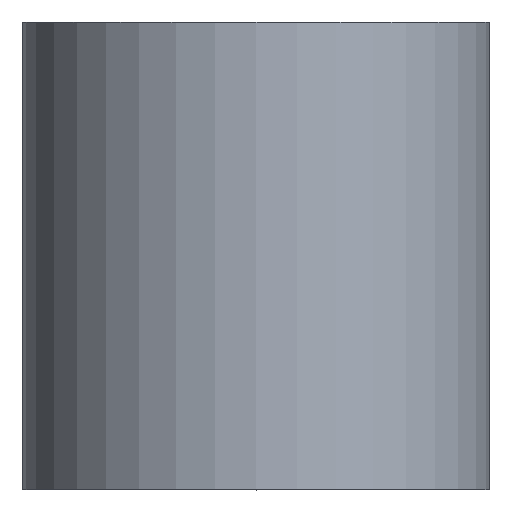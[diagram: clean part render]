
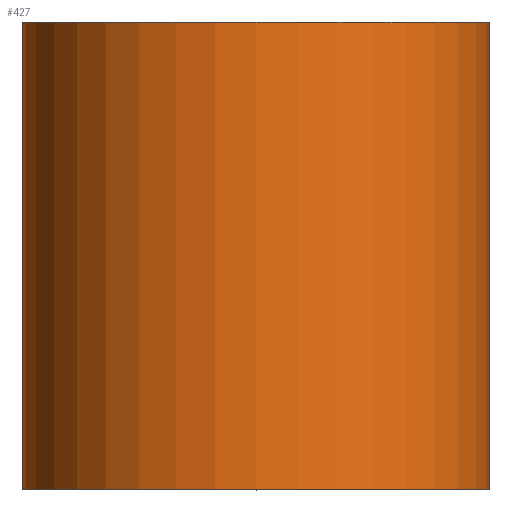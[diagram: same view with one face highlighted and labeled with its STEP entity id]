
A CAD part, top view. The second image highlights one B-rep face of the part: STEP entity #427.
In plain terms, the highlighted cylindrical face has radius 20 mm (diameter 40 mm), a partial arc.
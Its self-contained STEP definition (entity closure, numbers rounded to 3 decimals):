
#36 = EDGE_CURVE ( 'NONE', #72, #76, #856, .T. ) ;
#47 = VERTEX_POINT ( 'NONE', #758 ) ;
#72 = VERTEX_POINT ( 'NONE', #699 ) ;
#76 = VERTEX_POINT ( 'NONE', #762 ) ;
#88 = CIRCLE ( 'NONE', #361, 20. ) ;
#106 = ORIENTED_EDGE ( 'NONE', *, *, #450, .F. ) ;
#136 = AXIS2_PLACEMENT_3D ( 'NONE', #905, #275, #678 ) ;
#226 = VERTEX_POINT ( 'NONE', #641 ) ;
#254 = DIRECTION ( 'NONE',  ( 0., 1., 0. ) ) ;
#275 = DIRECTION ( 'NONE',  ( 0., 1., 0. ) ) ;
#333 = CARTESIAN_POINT ( 'NONE',  ( 20., 0., 0. ) ) ;
#361 = AXIS2_PLACEMENT_3D ( 'NONE', #411, #643, #857 ) ;
#364 = EDGE_CURVE ( 'NONE', #72, #226, #753, .T. ) ;
#386 = FACE_OUTER_BOUND ( 'NONE', #460, .T. ) ;
#411 = CARTESIAN_POINT ( 'NONE',  ( 0., 20., 0. ) ) ;
#427 = ADVANCED_FACE ( 'NONE', ( #386 ), #458, .T. ) ;
#450 = EDGE_CURVE ( 'NONE', #76, #47, #88, .T. ) ;
#458 = CYLINDRICAL_SURFACE ( 'NONE', #136, 20. ) ;
#459 = EDGE_CURVE ( 'NONE', #226, #47, #636, .T. ) ;
#460 = EDGE_LOOP ( 'NONE', ( #749, #832, #106, #871 ) ) ;
#471 = DIRECTION ( 'NONE',  ( 0., 1., 0. ) ) ;
#475 = DIRECTION ( 'NONE',  ( 0., 1., 0. ) ) ;
#611 = DIRECTION ( 'NONE',  ( -1., 0., 0. ) ) ;
#636 = LINE ( 'NONE', #333, #883 ) ;
#641 = CARTESIAN_POINT ( 'NONE',  ( 20., -20., 0. ) ) ;
#643 = DIRECTION ( 'NONE',  ( 0., 1., 0. ) ) ;
#678 = DIRECTION ( 'NONE',  ( -1., 0., 0. ) ) ;
#686 = CARTESIAN_POINT ( 'NONE',  ( 0., -20., 0. ) ) ;
#699 = CARTESIAN_POINT ( 'NONE',  ( -20., -20., 0. ) ) ;
#749 = ORIENTED_EDGE ( 'NONE', *, *, #364, .T. ) ;
#753 = CIRCLE ( 'NONE', #893, 20. ) ;
#758 = CARTESIAN_POINT ( 'NONE',  ( 20., 20., 0. ) ) ;
#762 = CARTESIAN_POINT ( 'NONE',  ( -20., 20., 0. ) ) ;
#779 = CARTESIAN_POINT ( 'NONE',  ( -20., 0., 0. ) ) ;
#832 = ORIENTED_EDGE ( 'NONE', *, *, #459, .T. ) ;
#856 = LINE ( 'NONE', #779, #927 ) ;
#857 = DIRECTION ( 'NONE',  ( -1., 0., 0. ) ) ;
#871 = ORIENTED_EDGE ( 'NONE', *, *, #36, .F. ) ;
#883 = VECTOR ( 'NONE', #254, 1000. ) ;
#893 = AXIS2_PLACEMENT_3D ( 'NONE', #686, #471, #611 ) ;
#905 = CARTESIAN_POINT ( 'NONE',  ( 0., 0., 0. ) ) ;
#927 = VECTOR ( 'NONE', #475, 1000. ) ;
